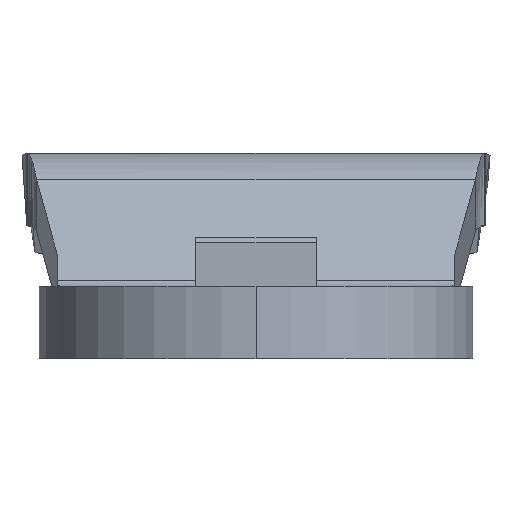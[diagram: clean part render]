
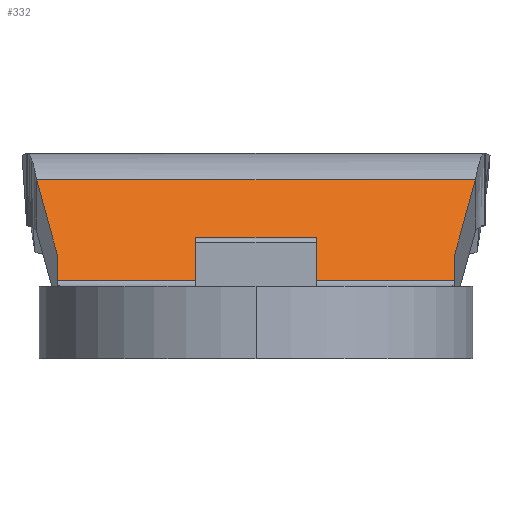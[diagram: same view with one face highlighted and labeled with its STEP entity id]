
A CAD part, left-side view. The second image highlights one B-rep face of the part: STEP entity #332.
In plain terms, the highlighted planar face has unit normal (-0.707, 0, 0.707).
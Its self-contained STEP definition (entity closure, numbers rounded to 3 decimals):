
#266 = EDGE_CURVE ( 'NONE', #337, #267, #1142, .T. ) ;
#267 = VERTEX_POINT ( 'NONE', #1198 ) ;
#275 = EDGE_CURVE ( 'NONE', #292, #279, #1182, .T. ) ;
#279 = VERTEX_POINT ( 'NONE', #1173 ) ;
#281 = VERTEX_POINT ( 'NONE', #1172 ) ;
#282 = ORIENTED_EDGE ( 'NONE', *, *, #335, .T. ) ;
#283 = ORIENTED_EDGE ( 'NONE', *, *, #275, .F. ) ;
#284 = ORIENTED_EDGE ( 'NONE', *, *, #297, .F. ) ;
#292 = VERTEX_POINT ( 'NONE', #1219 ) ;
#294 = VERTEX_POINT ( 'NONE', #1218 ) ;
#297 = EDGE_CURVE ( 'NONE', #294, #292, #1216, .T. ) ;
#327 = ORIENTED_EDGE ( 'NONE', *, *, #328, .T. ) ;
#328 = EDGE_CURVE ( 'NONE', #267, #281, #1230, .T. ) ;
#329 = ORIENTED_EDGE ( 'NONE', *, *, #330, .T. ) ;
#330 = EDGE_CURVE ( 'NONE', #294, #337, #1287, .T. ) ;
#332 = ADVANCED_FACE ( 'NONE', ( #1276 ), #1282, .F. ) ;
#334 = EDGE_LOOP ( 'NONE', ( #329, #338, #327, #282, #283, #284 ) ) ;
#335 = EDGE_CURVE ( 'NONE', #281, #279, #1267, .T. ) ;
#337 = VERTEX_POINT ( 'NONE', #1263 ) ;
#338 = ORIENTED_EDGE ( 'NONE', *, *, #266, .T. ) ;
#1135 = DIRECTION ( 'NONE',  ( 0., 1., 0. ) ) ;
#1136 = VECTOR ( 'NONE', #1135, 1000. ) ;
#1137 = CARTESIAN_POINT ( 'NONE',  ( 20.168, -9.5, 7.406 ) ) ;
#1142 = LINE ( 'NONE', #1137, #1136 ) ;
#1172 = CARTESIAN_POINT ( 'NONE',  ( 16.969, 8.207, 4.207 ) ) ;
#1173 = CARTESIAN_POINT ( 'NONE',  ( 15.978, 8.207, 3.216 ) ) ;
#1179 = DIRECTION ( 'NONE',  ( 0., 1., 0. ) ) ;
#1180 = VECTOR ( 'NONE', #1179, 1000. ) ;
#1181 = CARTESIAN_POINT ( 'NONE',  ( 15.978, -9.5, 3.216 ) ) ;
#1182 = LINE ( 'NONE', #1181, #1180 ) ;
#1198 = CARTESIAN_POINT ( 'NONE',  ( 20.168, 9.093, 7.406 ) ) ;
#1213 = DIRECTION ( 'NONE',  ( -0.707, 0., -0.707 ) ) ;
#1214 = VECTOR ( 'NONE', #1213, 1000. ) ;
#1215 = CARTESIAN_POINT ( 'NONE',  ( 16.969, -8.207, 4.207 ) ) ;
#1216 = LINE ( 'NONE', #1215, #1214 ) ;
#1218 = CARTESIAN_POINT ( 'NONE',  ( 16.969, -8.207, 4.207 ) ) ;
#1219 = CARTESIAN_POINT ( 'NONE',  ( 15.978, -8.207, 3.216 ) ) ;
#1230 = LINE ( 'NONE', #1290, #1289 ) ;
#1263 = CARTESIAN_POINT ( 'NONE',  ( 20.168, -9.093, 7.406 ) ) ;
#1264 = DIRECTION ( 'NONE',  ( -0.707, 0., -0.707 ) ) ;
#1265 = VECTOR ( 'NONE', #1264, 1000. ) ;
#1266 = CARTESIAN_POINT ( 'NONE',  ( 16.969, 8.207, 4.207 ) ) ;
#1267 = LINE ( 'NONE', #1266, #1265 ) ;
#1271 = DIRECTION ( 'NONE',  ( -0.707, 0., -0.707 ) ) ;
#1272 = DIRECTION ( 'NONE',  ( 0.707, 0., -0.707 ) ) ;
#1273 = CARTESIAN_POINT ( 'NONE',  ( 10.785, -9.5, -1.977 ) ) ;
#1275 = AXIS2_PLACEMENT_3D ( 'NONE', #1273, #1272, #1271 ) ;
#1276 = FACE_OUTER_BOUND ( 'NONE', #334, .T. ) ;
#1282 = PLANE ( 'NONE',  #1275 ) ;
#1284 = DIRECTION ( 'NONE',  ( 0.694, -0.192, 0.694 ) ) ;
#1285 = VECTOR ( 'NONE', #1284, 1000. ) ;
#1286 = CARTESIAN_POINT ( 'NONE',  ( 12.783, -7.047, 0.021 ) ) ;
#1287 = LINE ( 'NONE', #1286, #1285 ) ;
#1288 = DIRECTION ( 'NONE',  ( -0.694, -0.192, -0.694 ) ) ;
#1289 = VECTOR ( 'NONE', #1288, 1000. ) ;
#1290 = CARTESIAN_POINT ( 'NONE',  ( 12.783, 7.047, 0.021 ) ) ;
